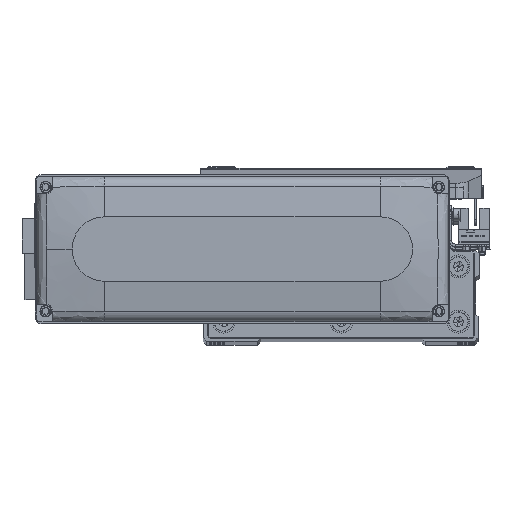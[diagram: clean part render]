
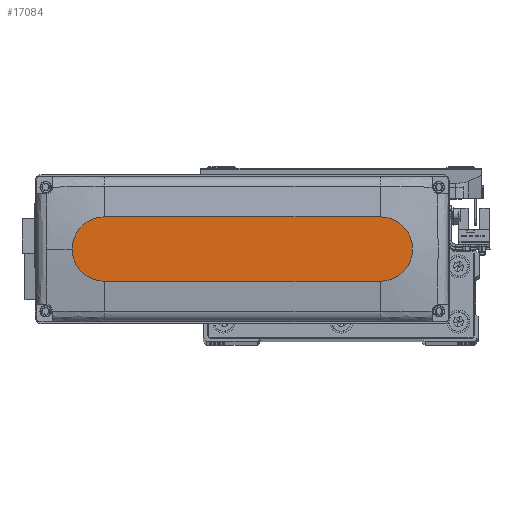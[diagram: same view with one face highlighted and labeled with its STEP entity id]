
A CAD part, top view. The second image highlights one B-rep face of the part: STEP entity #17084.
In plain terms, the highlighted planar face has unit normal (0, 0, 1).
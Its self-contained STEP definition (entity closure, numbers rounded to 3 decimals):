
#799 = ORIENTED_EDGE ( 'NONE', *, *, #42465, .T. ) ;
#2244 = AXIS2_PLACEMENT_3D ( 'NONE', #35617, #2775, #3275 ) ;
#2775 = DIRECTION ( 'NONE',  ( 0., 0., 1. ) ) ;
#3275 = DIRECTION ( 'NONE',  ( 1., 0., 0. ) ) ;
#3549 = VERTEX_POINT ( 'NONE', #26553 ) ;
#4063 = CARTESIAN_POINT ( 'NONE',  ( 74., 0., 28.5 ) ) ;
#6739 = DIRECTION ( 'NONE',  ( 0., 0., 1. ) ) ;
#7119 = DIRECTION ( 'NONE',  ( 1., 0., 0. ) ) ;
#8760 = EDGE_CURVE ( 'NONE', #3549, #22602, #21396, .T. ) ;
#9534 = DIRECTION ( 'NONE',  ( -1., 0., 0. ) ) ;
#10665 = ORIENTED_EDGE ( 'NONE', *, *, #39251, .T. ) ;
#10777 = EDGE_LOOP ( 'NONE', ( #12587, #21779, #10665, #44278, #799 ) ) ;
#10901 = CIRCLE ( 'NONE', #23934, 14. ) ;
#11027 = DIRECTION ( 'NONE',  ( 1., 0., 0. ) ) ;
#11919 = VECTOR ( 'NONE', #7119, 1000. ) ;
#12587 = ORIENTED_EDGE ( 'NONE', *, *, #41688, .T. ) ;
#12821 = VERTEX_POINT ( 'NONE', #4063 ) ;
#12969 = DIRECTION ( 'NONE',  ( 0., 0., 1. ) ) ;
#13826 = AXIS2_PLACEMENT_3D ( 'NONE', #17982, #6739, #11027 ) ;
#14518 = LINE ( 'NONE', #26007, #11919 ) ;
#14711 = CARTESIAN_POINT ( 'NONE',  ( -60., -14., 28.5 ) ) ;
#17084 = ADVANCED_FACE ( 'NONE', ( #17753 ), #29008, .T. ) ;
#17753 = FACE_OUTER_BOUND ( 'NONE', #10777, .T. ) ;
#17982 = CARTESIAN_POINT ( 'NONE',  ( 0., 0., 28.5 ) ) ;
#21396 = CIRCLE ( 'NONE', #2244, 14. ) ;
#21779 = ORIENTED_EDGE ( 'NONE', *, *, #8760, .T. ) ;
#22602 = VERTEX_POINT ( 'NONE', #14711 ) ;
#23797 = CIRCLE ( 'NONE', #32133, 14. ) ;
#23934 = AXIS2_PLACEMENT_3D ( 'NONE', #39471, #29362, #43977 ) ;
#24009 = CARTESIAN_POINT ( 'NONE',  ( 60., 0., 28.5 ) ) ;
#25450 = CARTESIAN_POINT ( 'NONE',  ( 60., 14., 28.5 ) ) ;
#26007 = CARTESIAN_POINT ( 'NONE',  ( -60., -14., 28.5 ) ) ;
#26553 = CARTESIAN_POINT ( 'NONE',  ( -60., 14., 28.5 ) ) ;
#29008 = PLANE ( 'NONE',  #13826 ) ;
#29362 = DIRECTION ( 'NONE',  ( 0., 0., 1. ) ) ;
#31384 = VERTEX_POINT ( 'NONE', #39536 ) ;
#32133 = AXIS2_PLACEMENT_3D ( 'NONE', #24009, #12969, #38865 ) ;
#32835 = VERTEX_POINT ( 'NONE', #25450 ) ;
#34928 = CARTESIAN_POINT ( 'NONE',  ( -60., 14., 28.5 ) ) ;
#35104 = EDGE_CURVE ( 'NONE', #31384, #12821, #10901, .T. ) ;
#35617 = CARTESIAN_POINT ( 'NONE',  ( -60., 0., 28.5 ) ) ;
#38865 = DIRECTION ( 'NONE',  ( 1., 0., 0. ) ) ;
#39251 = EDGE_CURVE ( 'NONE', #22602, #31384, #14518, .T. ) ;
#39471 = CARTESIAN_POINT ( 'NONE',  ( 60., 0., 28.5 ) ) ;
#39536 = CARTESIAN_POINT ( 'NONE',  ( 60., -14., 28.5 ) ) ;
#41688 = EDGE_CURVE ( 'NONE', #32835, #3549, #42120, .T. ) ;
#42120 = LINE ( 'NONE', #34928, #42721 ) ;
#42465 = EDGE_CURVE ( 'NONE', #12821, #32835, #23797, .T. ) ;
#42721 = VECTOR ( 'NONE', #9534, 1000. ) ;
#43977 = DIRECTION ( 'NONE',  ( 1., 0., 0. ) ) ;
#44278 = ORIENTED_EDGE ( 'NONE', *, *, #35104, .T. ) ;
